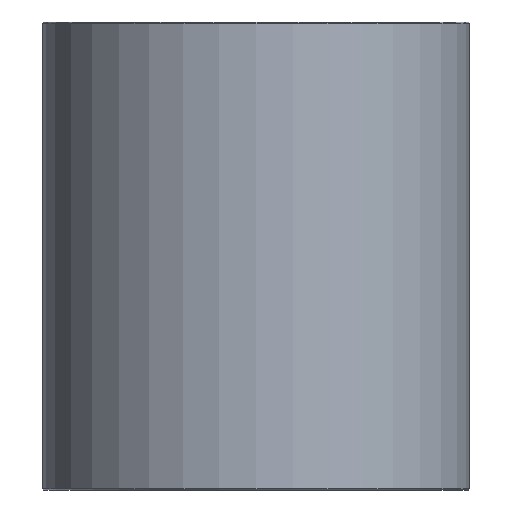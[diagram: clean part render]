
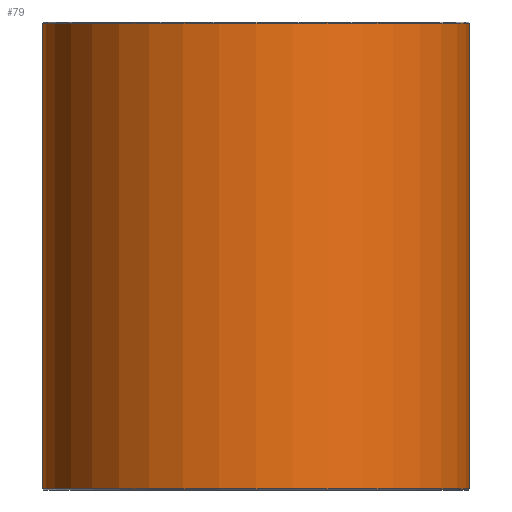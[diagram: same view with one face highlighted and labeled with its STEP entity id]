
A CAD part, front view. The second image highlights one B-rep face of the part: STEP entity #79.
In plain terms, the highlighted cylindrical face has radius 36.5 mm (diameter 73 mm), a full revolution.
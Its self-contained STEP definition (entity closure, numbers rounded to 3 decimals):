
#79=ADVANCED_FACE('',(#96,#97),#98,.T.);
#96=FACE_OUTER_BOUND('',#120,.T.);
#97=FACE_OUTER_BOUND('',#121,.T.);
#98=CYLINDRICAL_SURFACE('',#122,36.5);
#120=EDGE_LOOP('',(#152));
#121=EDGE_LOOP('',(#153));
#122=AXIS2_PLACEMENT_3D('',#154,#155,#156);
#152=ORIENTED_EDGE('',*,*,#178,.T.);
#153=ORIENTED_EDGE('',*,*,#177,.T.);
#154=CARTESIAN_POINT('',(0.0,0.0,80.0));
#155=DIRECTION('',(0.0,0.0,-1.0));
#156=DIRECTION('',(-1.0,0.0,0.0));
#177=EDGE_CURVE('',#190,#190,#191,.T.);
#178=EDGE_CURVE('',#192,#192,#193,.F.);
#190=VERTEX_POINT('',#206);
#191=CIRCLE('',#207,36.5);
#192=VERTEX_POINT('',#208);
#193=CIRCLE('',#209,36.5);
#206=CARTESIAN_POINT('',(36.5,0.0,0.2));
#207=AXIS2_PLACEMENT_3D('',#227,#228,#229);
#208=CARTESIAN_POINT('',(36.5,0.,79.8));
#209=AXIS2_PLACEMENT_3D('',#230,#231,#232);
#227=CARTESIAN_POINT('',(0.0,0.0,0.2));
#228=DIRECTION('',(0.0,0.0,1.0));
#229=DIRECTION('',(1.0,0.0,0.0));
#230=CARTESIAN_POINT('',(0.0,0.0,79.8));
#231=DIRECTION('',(0.0,0.0,1.0));
#232=DIRECTION('',(1.0,0.0,0.0));
